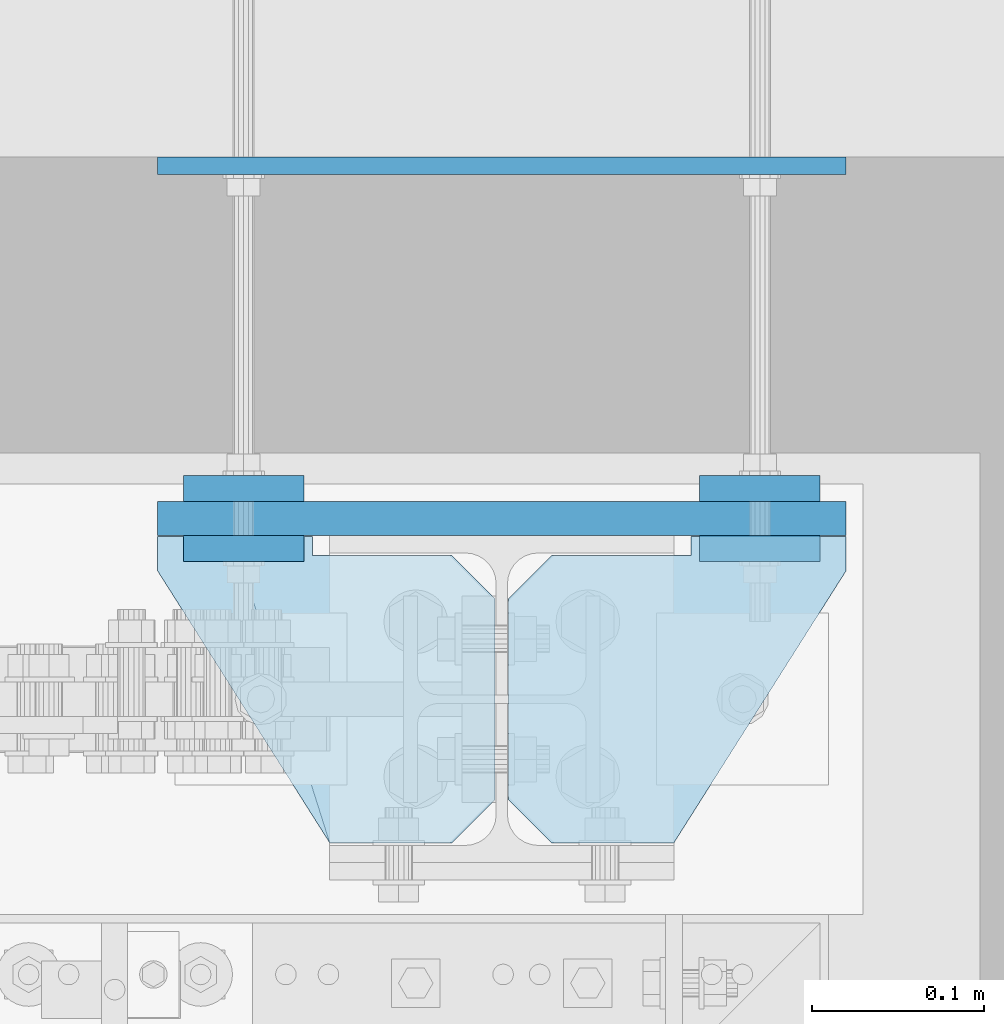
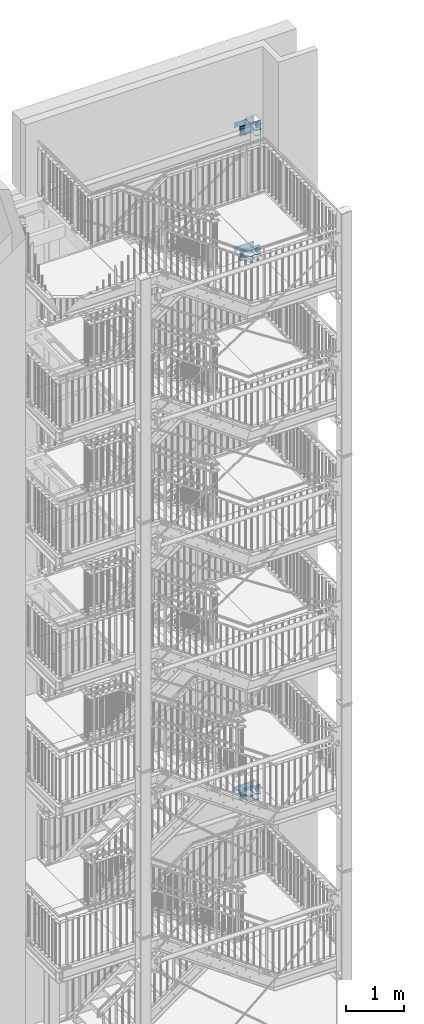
# One storey, part 212 of 825: 28 plates, 44 openings.
"""IFC2X3 building model written with IfcOpenShell, lengths in millimetres."""

from ifc_helpers import new_model, entity, si_unit, converted_unit, frame, frame_2d, origin, origin_with_axes, origin_2d_with_axis, place, context, project, spatial, polyline, circle, outline, extrude, material, layer, layer_set, element, save


model = new_model("IFC2X3")

# Units and contexts
model_context = context("Model", 3, precision=1e-09, world=origin_with_axes())
ifc_project = project(units=[si_unit("LENGTHUNIT", "METRE", prefix="MILLI"), si_unit("AREAUNIT", "SQUARE_METRE"), si_unit("VOLUMEUNIT", "CUBIC_METRE"), converted_unit("PLANEANGLEUNIT", "DEGREE", entity("IfcPlaneAngleMeasure", 0.01745329), si_unit("PLANEANGLEUNIT", "RADIAN"), dimensions=[0, 0, 0, 0, 0, 0, 0])], contexts=[model_context])

# Site, building, storey
site_placement = place(None, origin_with_axes())
site = spatial("IfcSite", under=ifc_project, at=site_placement, Name="Cnopf'sche Kinderklinik", CompositionType="ELEMENT")
building_placement = place(site_placement, origin_with_axes())
building = spatial("IfcBuilding", under=site, at=building_placement, Name="Struktur 1", CompositionType="ELEMENT")
storey_placement = place(building_placement, origin_with_axes())
storey = spatial("IfcBuildingStorey", under=building, at=storey_placement, Name="Default Storey", CompositionType="ELEMENT", Elevation=0.0)

# Plate, opening
ifc_material = material(Name="S235JR")
ifc_layer_1 = layer(ifc_material, 15.0)
ifc_layer_set_1 = layer_set([ifc_layer_1], Name="S235JR")
plate_1_placement = place(None, frame((8716.71340296, 7611.736971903, 15149.0), z_axis=(0.0, -1.0, 0.0), x_axis=(1.0, 0.0, 0.0)))
plate_1 = element("IfcPlate", 1, at=plate_1_placement, inside=storey, material=ifc_layer_set_1, Name="-", ObjectType="-", context=model_context, shape_type="SweptSolid", body=[
    extrude(outline(polyline([(-35.0, -35.0), (35.0, -35.0), (35.0, 35.0), (-35.0, 35.0), (-35.0, -35.0)])), origin_with_axes(), (0.0, 0.0, 1.0), 15.0),
])
opening_1_placement = place(plate_1_placement, frame((-2.68e-07, 0.0, -0.5), z_axis=(0.0, 0.0, 1.0), x_axis=(1.0, 0.0, 0.0)))
element("IfcOpeningElement", 2, at=opening_1_placement, cuts=plate_1, ObjectType="Opening", context=model_context, shape_type="SweptSolid", body=[
    extrude(circle(Radius=7.001, at=origin_2d_with_axis()), origin(), (0.0, 0.0, 1.0), 16.0),
])

plate_2_placement = place(None, frame((8716.71340296, 7646.736971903, 15149.0), z_axis=(0.0, -1.0, 0.0), x_axis=(1.0, 0.0, 0.0)))
plate_2 = element("IfcPlate", 3, at=plate_2_placement, inside=storey, material=ifc_layer_set_1, Name="-", ObjectType="-", context=model_context, shape_type="SweptSolid", body=[
    extrude(outline(polyline([(-35.0, -35.0), (35.0, -35.0), (35.0, 35.0), (-35.0, 35.0), (-35.0, -35.0)])), origin_with_axes(), (0.0, 0.0, 1.0), 15.0),
])
opening_2_placement = place(plate_2_placement, frame((-2.68e-07, 0.0, -0.5), z_axis=(0.0, 0.0, 1.0), x_axis=(1.0, 0.0, 0.0)))
element("IfcOpeningElement", 4, at=opening_2_placement, cuts=plate_2, ObjectType="Opening", context=model_context, shape_type="SweptSolid", body=[
    extrude(circle(Radius=7.001, at=origin_2d_with_axis()), origin(), (0.0, 0.0, 1.0), 16.0),
])

# Plate, openings
ifc_layer_2 = layer(ifc_material, 10.0)
ifc_layer_set_2 = layer_set([ifc_layer_2], Name="S235JR")
plate_3_placement = place(None, frame((8866.713402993, 7831.736971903, 15149.000000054), z_axis=(0.0, -1.0, 0.0), x_axis=(1.0, 0.0, 0.0)))
plate_3 = element("IfcPlate", 5, at=plate_3_placement, inside=storey, material=ifc_layer_set_2, Name="-", ObjectType="-", context=model_context, shape_type="SweptSolid", body=[
    extrude(outline(polyline([(-200.0, -50.0), (200.0, -50.0), (200.0, 50.0), (-200.0, 50.0), (-200.0, -50.0)])), origin_with_axes(), (0.0, 0.0, 1.0), 10.0),
])
opening_3_placement = place(plate_3_placement, frame((-3.4e-08, -5.4e-08, -0.5), z_axis=(0.0, 0.0, 1.0), x_axis=(1.0, 0.0, 0.0)))
element("IfcOpeningElement", 6, at=opening_3_placement, cuts=plate_3, ObjectType="Opening", context=model_context, shape_type="SweptSolid", body=[
    extrude(circle(Radius=7.001, at=frame_2d((150.0, 0.0), x_axis=(1.0, 0.0))), origin(), (0.0, 0.0, 1.0), 11.0),
])
opening_4_placement = place(plate_3_placement, frame((-3.4e-08, -5.4e-08, -0.5), z_axis=(0.0, 0.0, 1.0), x_axis=(1.0, 0.0, 0.0)))
element("IfcOpeningElement", 7, at=opening_4_placement, cuts=plate_3, ObjectType="Opening", context=model_context, shape_type="SweptSolid", body=[
    extrude(circle(Radius=7.001, at=frame_2d((-150.0, 0.0), x_axis=(1.0, 0.0))), origin(), (0.0, 0.0, 1.0), 11.0),
])

# Plate, opening
plate_4_placement = place(None, frame((9016.713403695, 7611.736971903, 15149.0), z_axis=(0.0, 1.0, 0.0), x_axis=(-1.0, 0.0, 0.0)))
plate_4 = element("IfcPlate", 8, at=plate_4_placement, inside=storey, material=ifc_layer_set_1, Name="-", ObjectType="-", context=model_context, shape_type="SweptSolid", body=[
    extrude(outline(polyline([(-35.0, -35.0), (35.0, -35.0), (35.0, 35.0), (-35.0, 35.0), (-35.0, -35.0)])), origin_with_axes(), (0.0, 0.0, -1.0), 15.0),
])
opening_5_placement = place(plate_4_placement, frame((-7.001000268, 0.0, 0.5), z_axis=(0.0, 0.0, 1.0), x_axis=(1.0, 0.0, 0.0)))
element("IfcOpeningElement", 9, at=opening_5_placement, cuts=plate_4, ObjectType="Opening", context=model_context, shape_type="SweptSolid", body=[
    extrude(circle(Radius=7.001, at=frame_2d((7.001, 0.0), x_axis=(1.0, 0.0))), origin(), (0.0, 0.0, -1.0), 16.0),
])

plate_5_placement = place(None, frame((9016.713403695, 7646.736971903, 15149.0), z_axis=(0.0, 1.0, 0.0), x_axis=(-1.0, 0.0, 0.0)))
plate_5 = element("IfcPlate", 10, at=plate_5_placement, inside=storey, material=ifc_layer_set_1, Name="-", ObjectType="-", context=model_context, shape_type="SweptSolid", body=[
    extrude(outline(polyline([(-35.0, -35.0), (35.0, -35.0), (35.0, 35.0), (-35.0, 35.0), (-35.0, -35.0)])), origin_with_axes(), (0.0, 0.0, -1.0), 15.0),
])
opening_6_placement = place(plate_5_placement, frame((-7.001000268, 0.0, 0.5), z_axis=(0.0, 0.0, 1.0), x_axis=(1.0, 0.0, 0.0)))
element("IfcOpeningElement", 11, at=opening_6_placement, cuts=plate_5, ObjectType="Opening", context=model_context, shape_type="SweptSolid", body=[
    extrude(circle(Radius=7.001, at=frame_2d((7.001, 0.0), x_axis=(1.0, 0.0))), origin(), (0.0, 0.0, -1.0), 16.0),
])

# Plate, openings
ifc_layer_3 = layer(ifc_material, 20.0)
ifc_layer_set_3 = layer_set([ifc_layer_3], Name="S235JR")
plate_6_placement = place(None, frame((8866.713402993, 7631.736971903, 15149.000000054), z_axis=(0.0, -1.0, 0.0), x_axis=(1.0, 0.0, 0.0)))
plate_6 = element("IfcPlate", 12, at=plate_6_placement, inside=storey, material=ifc_layer_set_3, Name="-", ObjectType="-", context=model_context, shape_type="SweptSolid", body=[
    extrude(outline(polyline([(-200.0, -100.0), (200.0, -100.0), (200.0, 100.0), (-200.0, 100.0), (-200.0, -100.0)])), origin_with_axes(), (0.0, 0.0, 1.0), 20.0),
])
opening_7_placement = place(plate_6_placement, frame((-3.4e-08, -5.4e-08, -0.5), z_axis=(0.0, 0.0, 1.0), x_axis=(1.0, 0.0, 0.0)))
element("IfcOpeningElement", 13, at=opening_7_placement, cuts=plate_6, ObjectType="Opening", context=model_context, shape_type="SweptSolid", body=[
    extrude(circle(Radius=20.001, at=frame_2d((150.0, 0.0), x_axis=(1.0, 0.0))), origin(), (0.0, 0.0, 1.0), 21.0),
])
opening_8_placement = place(plate_6_placement, frame((-3.4e-08, -5.4e-08, -0.5), z_axis=(0.0, 0.0, 1.0), x_axis=(1.0, 0.0, 0.0)))
element("IfcOpeningElement", 14, at=opening_8_placement, cuts=plate_6, ObjectType="Opening", context=model_context, shape_type="SweptSolid", body=[
    extrude(circle(Radius=20.001, at=frame_2d((-150.0, 0.0), x_axis=(1.0, 0.0))), origin(), (0.0, 0.0, 1.0), 21.0),
])

plate_7_placement = place(None, frame((8666.713402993, 7611.236971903, 15204.000000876), z_axis=(0.0, 0.0, 1.0), x_axis=(0.0, -1.0, 0.0)))
plate_7 = element("IfcPlate", 15, at=plate_7_placement, inside=storey, material=ifc_layer_set_2, Name="-", ObjectType="-", context=model_context, shape_type="SweptSolid", body=[
    extrude(outline(polyline([(0.0, 0.0), (20.0, 0.0), (178.0, 100.0), (178.0, 196.0), (11.0, 196.0), (11.0, 90.0), (0.0, 90.0), (0.0, 0.0)])), origin_with_axes(), (0.0, 0.0, 1.0), 10.0),
])
opening_9_placement = place(plate_7_placement, frame((0.0, 0.0, -0.01), z_axis=(0.0, 0.0, 1.0), x_axis=(1.0, 0.0, 0.0)))
element("IfcOpeningElement", 16, at=opening_9_placement, cuts=plate_7, ObjectType="Opening", context=model_context, shape_type="SweptSolid", body=[
    extrude(outline(polyline([(11.0, 196.0), (11.0, 171.0), (36.0, 196.0), (11.0, 196.0)])), origin(), (0.0, 0.0, 1.0), 10.02),
])
opening_10_placement = place(plate_7_placement, frame((0.0, 0.0, -0.01), z_axis=(0.0, 0.0, 1.0), x_axis=(1.0, 0.0, 0.0)))
element("IfcOpeningElement", 17, at=opening_10_placement, cuts=plate_7, ObjectType="Opening", context=model_context, shape_type="SweptSolid", body=[
    extrude(outline(polyline([(178.0, 196.0), (153.0, 196.0), (178.0, 171.0), (178.0, 196.0)])), origin(), (0.0, 0.0, 1.0), 10.02),
])

plate_8_placement = place(None, frame((8666.713402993, 7611.236971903, 15084.000000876), z_axis=(0.0, 0.0, 1.0), x_axis=(0.0, -1.0, 0.0)))
plate_8 = element("IfcPlate", 18, at=plate_8_placement, inside=storey, material=ifc_layer_set_2, Name="-", ObjectType="-", context=model_context, shape_type="SweptSolid", body=[
    extrude(outline(polyline([(0.0, 0.0), (20.0, 0.0), (178.0, 100.0), (178.0, 196.0), (11.0, 196.0), (11.0, 90.0), (0.0, 90.0), (0.0, 0.0)])), origin_with_axes(), (0.0, 0.0, 1.0), 10.0),
])
opening_11_placement = place(plate_8_placement, frame((0.0, 0.0, -0.01), z_axis=(0.0, 0.0, 1.0), x_axis=(1.0, 0.0, 0.0)))
element("IfcOpeningElement", 19, at=opening_11_placement, cuts=plate_8, ObjectType="Opening", context=model_context, shape_type="SweptSolid", body=[
    extrude(outline(polyline([(11.0, 196.0), (11.0, 171.0), (36.0, 196.0), (11.0, 196.0)])), origin(), (0.0, 0.0, 1.0), 10.02),
])
opening_12_placement = place(plate_8_placement, frame((0.0, 0.0, -0.01), z_axis=(0.0, 0.0, 1.0), x_axis=(1.0, 0.0, 0.0)))
element("IfcOpeningElement", 20, at=opening_12_placement, cuts=plate_8, ObjectType="Opening", context=model_context, shape_type="SweptSolid", body=[
    extrude(outline(polyline([(178.0, 196.0), (153.0, 196.0), (178.0, 171.0), (178.0, 196.0)])), origin(), (0.0, 0.0, 1.0), 10.02),
])

plate_9_placement = place(None, frame((9066.713402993, 7611.236971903, 15204.000000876), z_axis=(0.0, 0.0, -1.0), x_axis=(0.0, -1.0, 0.0)))
plate_9 = element("IfcPlate", 21, at=plate_9_placement, inside=storey, material=ifc_layer_set_2, Name="-", ObjectType="-", context=model_context, shape_type="SweptSolid", body=[
    extrude(outline(polyline([(0.0, 0.0), (20.0, 0.0), (178.0, 100.0), (178.0, 196.0), (11.0, 196.0), (11.0, 90.0), (0.0, 90.0), (0.0, 0.0)])), origin_with_axes(), (0.0, 0.0, -1.0), 10.0),
])
opening_13_placement = place(plate_9_placement, frame((11.0, 196.0, 0.01), z_axis=(0.0, 0.0, 1.0), x_axis=(0.0, -1.0, 0.0)))
element("IfcOpeningElement", 22, at=opening_13_placement, cuts=plate_9, ObjectType="Opening", context=model_context, shape_type="SweptSolid", body=[
    extrude(outline(polyline([(0.0, 0.0), (25.0, 0.0), (0.0, 25.0), (0.0, 0.0)])), origin(), (0.0, 0.0, -1.0), 10.02),
])
opening_14_placement = place(plate_9_placement, frame((178.0, 196.0, 0.01), z_axis=(0.0, 0.0, 1.0), x_axis=(-1.0, 0.0, 0.0)))
element("IfcOpeningElement", 23, at=opening_14_placement, cuts=plate_9, ObjectType="Opening", context=model_context, shape_type="SweptSolid", body=[
    extrude(outline(polyline([(0.0, 0.0), (25.0, 0.0), (0.0, 25.0), (0.0, 0.0)])), origin(), (0.0, 0.0, -1.0), 10.02),
])

plate_10_placement = place(None, frame((9066.713402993, 7611.236971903, 15084.000000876), z_axis=(0.0, 0.0, -1.0), x_axis=(0.0, -1.0, 0.0)))
plate_10 = element("IfcPlate", 24, at=plate_10_placement, inside=storey, material=ifc_layer_set_2, Name="-", ObjectType="-", context=model_context, shape_type="SweptSolid", body=[
    extrude(outline(polyline([(0.0, 0.0), (20.0, 0.0), (178.0, 100.0), (178.0, 196.0), (11.0, 196.0), (11.0, 90.0), (0.0, 90.0), (0.0, 0.0)])), origin_with_axes(), (0.0, 0.0, -1.0), 10.0),
])
opening_15_placement = place(plate_10_placement, frame((11.0, 196.0, 0.01), z_axis=(0.0, 0.0, 1.0), x_axis=(0.0, -1.0, 0.0)))
element("IfcOpeningElement", 25, at=opening_15_placement, cuts=plate_10, ObjectType="Opening", context=model_context, shape_type="SweptSolid", body=[
    extrude(outline(polyline([(0.0, 0.0), (25.0, 0.0), (0.0, 25.0), (0.0, 0.0)])), origin(), (0.0, 0.0, -1.0), 10.02),
])
opening_16_placement = place(plate_10_placement, frame((178.0, 196.0, 0.01), z_axis=(0.0, 0.0, 1.0), x_axis=(-1.0, 0.0, 0.0)))
element("IfcOpeningElement", 26, at=opening_16_placement, cuts=plate_10, ObjectType="Opening", context=model_context, shape_type="SweptSolid", body=[
    extrude(outline(polyline([(0.0, 0.0), (25.0, 0.0), (0.0, 25.0), (0.0, 0.0)])), origin(), (0.0, 0.0, -1.0), 10.02),
])

# Plate, opening
plate_11_placement = place(None, frame((9016.713403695, 7646.736971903, 17769.0), z_axis=(0.0, 1.0, 0.0), x_axis=(-1.0, 0.0, 0.0)))
plate_11 = element("IfcPlate", 27, at=plate_11_placement, inside=storey, material=ifc_layer_set_1, Name="-", ObjectType="-", context=model_context, shape_type="SweptSolid", body=[
    extrude(outline(polyline([(-35.0, -35.0), (35.0, -35.0), (35.0, 35.0), (-35.0, 35.0), (-35.0, -35.0)])), origin_with_axes(), (0.0, 0.0, -1.0), 15.0),
])
opening_17_placement = place(plate_11_placement, frame((-7.001000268, 0.0, 0.5), z_axis=(0.0, 0.0, 1.0), x_axis=(1.0, 0.0, 0.0)))
element("IfcOpeningElement", 28, at=opening_17_placement, cuts=plate_11, ObjectType="Opening", context=model_context, shape_type="SweptSolid", body=[
    extrude(circle(Radius=7.001, at=frame_2d((7.001, 0.0), x_axis=(1.0, 0.0))), origin(), (0.0, 0.0, -1.0), 16.0),
])

plate_12_placement = place(None, frame((9016.713403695, 7611.736971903, 17769.0), z_axis=(0.0, 1.0, 0.0), x_axis=(-1.0, 0.0, 0.0)))
plate_12 = element("IfcPlate", 29, at=plate_12_placement, inside=storey, material=ifc_layer_set_1, Name="-", ObjectType="-", context=model_context, shape_type="SweptSolid", body=[
    extrude(outline(polyline([(-35.0, -35.0), (35.0, -35.0), (35.0, 35.0), (-35.0, 35.0), (-35.0, -35.0)])), origin_with_axes(), (0.0, 0.0, -1.0), 15.0),
])
opening_18_placement = place(plate_12_placement, frame((-7.001000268, 0.0, 0.5), z_axis=(0.0, 0.0, 1.0), x_axis=(1.0, 0.0, 0.0)))
element("IfcOpeningElement", 30, at=opening_18_placement, cuts=plate_12, ObjectType="Opening", context=model_context, shape_type="SweptSolid", body=[
    extrude(circle(Radius=7.001, at=frame_2d((7.001, 0.0), x_axis=(1.0, 0.0))), origin(), (0.0, 0.0, -1.0), 16.0),
])

# Plate, openings
plate_13_placement = place(None, frame((8866.713402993, 7831.736971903, 17769.000000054), z_axis=(0.0, -1.0, 0.0), x_axis=(1.0, 0.0, 0.0)))
plate_13 = element("IfcPlate", 31, at=plate_13_placement, inside=storey, material=ifc_layer_set_2, Name="-", ObjectType="-", context=model_context, shape_type="SweptSolid", body=[
    extrude(outline(polyline([(-200.0, -50.0), (200.0, -50.0), (200.0, 50.0), (-200.0, 50.0), (-200.0, -50.0)])), origin_with_axes(), (0.0, 0.0, 1.0), 10.0),
])
opening_19_placement = place(plate_13_placement, frame((-3.4e-08, -5.4e-08, -0.5), z_axis=(0.0, 0.0, 1.0), x_axis=(1.0, 0.0, 0.0)))
element("IfcOpeningElement", 32, at=opening_19_placement, cuts=plate_13, ObjectType="Opening", context=model_context, shape_type="SweptSolid", body=[
    extrude(circle(Radius=7.001, at=frame_2d((150.0, 0.0), x_axis=(1.0, 0.0))), origin(), (0.0, 0.0, 1.0), 11.0),
])
opening_20_placement = place(plate_13_placement, frame((-3.4e-08, -5.4e-08, -0.5), z_axis=(0.0, 0.0, 1.0), x_axis=(1.0, 0.0, 0.0)))
element("IfcOpeningElement", 33, at=opening_20_placement, cuts=plate_13, ObjectType="Opening", context=model_context, shape_type="SweptSolid", body=[
    extrude(circle(Radius=7.001, at=frame_2d((-150.0, 0.0), x_axis=(1.0, 0.0))), origin(), (0.0, 0.0, 1.0), 11.0),
])

# Plate, opening
plate_14_placement = place(None, frame((8716.71340296, 7646.736971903, 17769.0), z_axis=(0.0, -1.0, 0.0), x_axis=(1.0, 0.0, 0.0)))
plate_14 = element("IfcPlate", 34, at=plate_14_placement, inside=storey, material=ifc_layer_set_1, Name="-", ObjectType="-", context=model_context, shape_type="SweptSolid", body=[
    extrude(outline(polyline([(-35.0, -35.0), (35.0, -35.0), (35.0, 35.0), (-35.0, 35.0), (-35.0, -35.0)])), origin_with_axes(), (0.0, 0.0, 1.0), 15.0),
])
opening_21_placement = place(plate_14_placement, frame((-2.68e-07, 0.0, -0.5), z_axis=(0.0, 0.0, 1.0), x_axis=(1.0, 0.0, 0.0)))
element("IfcOpeningElement", 35, at=opening_21_placement, cuts=plate_14, ObjectType="Opening", context=model_context, shape_type="SweptSolid", body=[
    extrude(circle(Radius=7.001, at=origin_2d_with_axis()), origin(), (0.0, 0.0, 1.0), 16.0),
])

plate_15_placement = place(None, frame((8716.71340296, 7611.736971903, 17769.0), z_axis=(0.0, -1.0, 0.0), x_axis=(1.0, 0.0, 0.0)))
plate_15 = element("IfcPlate", 36, at=plate_15_placement, inside=storey, material=ifc_layer_set_1, Name="-", ObjectType="-", context=model_context, shape_type="SweptSolid", body=[
    extrude(outline(polyline([(-35.0, -35.0), (35.0, -35.0), (35.0, 35.0), (-35.0, 35.0), (-35.0, -35.0)])), origin_with_axes(), (0.0, 0.0, 1.0), 15.0),
])
opening_22_placement = place(plate_15_placement, frame((-2.68e-07, 0.0, -0.5), z_axis=(0.0, 0.0, 1.0), x_axis=(1.0, 0.0, 0.0)))
element("IfcOpeningElement", 37, at=opening_22_placement, cuts=plate_15, ObjectType="Opening", context=model_context, shape_type="SweptSolid", body=[
    extrude(circle(Radius=7.001, at=origin_2d_with_axis()), origin(), (0.0, 0.0, 1.0), 16.0),
])

# Plate, openings
plate_16_placement = place(None, frame((9066.713402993, 7611.236971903, 17704.000000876), z_axis=(0.0, 0.0, -1.0), x_axis=(0.0, -1.0, 0.0)))
plate_16 = element("IfcPlate", 38, at=plate_16_placement, inside=storey, material=ifc_layer_set_2, Name="-", ObjectType="-", context=model_context, shape_type="SweptSolid", body=[
    extrude(outline(polyline([(0.0, 0.0), (20.0, 0.0), (178.0, 100.0), (178.0, 196.0), (11.0, 196.0), (11.0, 90.0), (0.0, 90.0), (0.0, 0.0)])), origin_with_axes(), (0.0, 0.0, -1.0), 10.0),
])
opening_23_placement = place(plate_16_placement, frame((11.0, 196.0, 0.01), z_axis=(0.0, 0.0, 1.0), x_axis=(0.0, -1.0, 0.0)))
element("IfcOpeningElement", 39, at=opening_23_placement, cuts=plate_16, ObjectType="Opening", context=model_context, shape_type="SweptSolid", body=[
    extrude(outline(polyline([(0.0, 0.0), (25.0, 0.0), (0.0, 25.0), (0.0, 0.0)])), origin(), (0.0, 0.0, -1.0), 10.02),
])
opening_24_placement = place(plate_16_placement, frame((178.0, 196.0, 0.01), z_axis=(0.0, 0.0, 1.0), x_axis=(-1.0, 0.0, 0.0)))
element("IfcOpeningElement", 40, at=opening_24_placement, cuts=plate_16, ObjectType="Opening", context=model_context, shape_type="SweptSolid", body=[
    extrude(outline(polyline([(0.0, 0.0), (25.0, 0.0), (0.0, 25.0), (0.0, 0.0)])), origin(), (0.0, 0.0, -1.0), 10.02),
])

plate_17_placement = place(None, frame((9066.713402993, 7611.236971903, 17824.000000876), z_axis=(0.0, 0.0, -1.0), x_axis=(0.0, -1.0, 0.0)))
plate_17 = element("IfcPlate", 41, at=plate_17_placement, inside=storey, material=ifc_layer_set_2, Name="-", ObjectType="-", context=model_context, shape_type="SweptSolid", body=[
    extrude(outline(polyline([(0.0, 0.0), (20.0, 0.0), (178.0, 100.0), (178.0, 196.0), (11.0, 196.0), (11.0, 90.0), (0.0, 90.0), (0.0, 0.0)])), origin_with_axes(), (0.0, 0.0, -1.0), 10.0),
])
opening_25_placement = place(plate_17_placement, frame((11.0, 196.0, 0.01), z_axis=(0.0, 0.0, 1.0), x_axis=(0.0, -1.0, 0.0)))
element("IfcOpeningElement", 42, at=opening_25_placement, cuts=plate_17, ObjectType="Opening", context=model_context, shape_type="SweptSolid", body=[
    extrude(outline(polyline([(0.0, 0.0), (25.0, 0.0), (0.0, 25.0), (0.0, 0.0)])), origin(), (0.0, 0.0, -1.0), 10.02),
])
opening_26_placement = place(plate_17_placement, frame((178.0, 196.0, 0.01), z_axis=(0.0, 0.0, 1.0), x_axis=(-1.0, 0.0, 0.0)))
element("IfcOpeningElement", 43, at=opening_26_placement, cuts=plate_17, ObjectType="Opening", context=model_context, shape_type="SweptSolid", body=[
    extrude(outline(polyline([(0.0, 0.0), (25.0, 0.0), (0.0, 25.0), (0.0, 0.0)])), origin(), (0.0, 0.0, -1.0), 10.02),
])

plate_18_placement = place(None, frame((8866.713402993, 7631.736971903, 17769.000000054), z_axis=(0.0, -1.0, 0.0), x_axis=(1.0, 0.0, 0.0)))
plate_18 = element("IfcPlate", 44, at=plate_18_placement, inside=storey, material=ifc_layer_set_3, Name="-", ObjectType="-", context=model_context, shape_type="SweptSolid", body=[
    extrude(outline(polyline([(-200.0, -100.0), (200.0, -100.0), (200.0, 100.0), (-200.0, 100.0), (-200.0, -100.0)])), origin_with_axes(), (0.0, 0.0, 1.0), 20.0),
])
opening_27_placement = place(plate_18_placement, frame((-3.4e-08, -5.4e-08, -0.5), z_axis=(0.0, 0.0, 1.0), x_axis=(1.0, 0.0, 0.0)))
element("IfcOpeningElement", 45, at=opening_27_placement, cuts=plate_18, ObjectType="Opening", context=model_context, shape_type="SweptSolid", body=[
    extrude(circle(Radius=20.001, at=frame_2d((150.0, 0.0), x_axis=(1.0, 0.0))), origin(), (0.0, 0.0, 1.0), 21.0),
])
opening_28_placement = place(plate_18_placement, frame((-3.4e-08, -5.4e-08, -0.5), z_axis=(0.0, 0.0, 1.0), x_axis=(1.0, 0.0, 0.0)))
element("IfcOpeningElement", 46, at=opening_28_placement, cuts=plate_18, ObjectType="Opening", context=model_context, shape_type="SweptSolid", body=[
    extrude(circle(Radius=20.001, at=frame_2d((-150.0, 0.0), x_axis=(1.0, 0.0))), origin(), (0.0, 0.0, 1.0), 21.0),
])

plate_19_placement = place(None, frame((8866.713402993, 7631.736971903, 3782.000000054), z_axis=(0.0, -1.0, 0.0), x_axis=(1.0, 0.0, 0.0)))
plate_19 = element("IfcPlate", 47, at=plate_19_placement, inside=storey, material=ifc_layer_set_3, Name="-", ObjectType="-", context=model_context, shape_type="SweptSolid", body=[
    extrude(outline(polyline([(-200.0, -100.0), (200.0, -100.0), (200.0, 100.0), (-200.0, 100.0), (-200.0, -100.0)])), origin_with_axes(), (0.0, 0.0, 1.0), 20.0),
])
opening_29_placement = place(plate_19_placement, frame((-3.4e-08, -5.4e-08, -0.5), z_axis=(0.0, 0.0, 1.0), x_axis=(1.0, 0.0, 0.0)))
element("IfcOpeningElement", 48, at=opening_29_placement, cuts=plate_19, ObjectType="Opening", context=model_context, shape_type="SweptSolid", body=[
    extrude(circle(Radius=20.001, at=frame_2d((150.0, 0.0), x_axis=(1.0, 0.0))), origin(), (0.0, 0.0, 1.0), 21.0),
])
opening_30_placement = place(plate_19_placement, frame((-3.4e-08, -5.4e-08, -0.5), z_axis=(0.0, 0.0, 1.0), x_axis=(1.0, 0.0, 0.0)))
element("IfcOpeningElement", 49, at=opening_30_placement, cuts=plate_19, ObjectType="Opening", context=model_context, shape_type="SweptSolid", body=[
    extrude(circle(Radius=20.001, at=frame_2d((-150.0, 0.0), x_axis=(1.0, 0.0))), origin(), (0.0, 0.0, 1.0), 21.0),
])

# Plate, opening
plate_20_placement = place(None, frame((8716.71340296, 7611.736971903, 3782.0), z_axis=(0.0, -1.0, 0.0), x_axis=(1.0, 0.0, 0.0)))
plate_20 = element("IfcPlate", 50, at=plate_20_placement, inside=storey, material=ifc_layer_set_1, Name="-", ObjectType="-", context=model_context, shape_type="SweptSolid", body=[
    extrude(outline(polyline([(-35.0, -35.0), (35.0, -35.0), (35.0, 35.0), (-35.0, 35.0), (-35.0, -35.0)])), origin_with_axes(), (0.0, 0.0, 1.0), 15.0),
])
opening_31_placement = place(plate_20_placement, frame((-2.68e-07, 0.0, -0.5), z_axis=(0.0, 0.0, 1.0), x_axis=(1.0, 0.0, 0.0)))
element("IfcOpeningElement", 51, at=opening_31_placement, cuts=plate_20, ObjectType="Opening", context=model_context, shape_type="SweptSolid", body=[
    extrude(circle(Radius=7.001, at=origin_2d_with_axis()), origin(), (0.0, 0.0, 1.0), 16.0),
])

plate_21_placement = place(None, frame((8716.71340296, 7646.736971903, 3782.0), z_axis=(0.0, -1.0, 0.0), x_axis=(1.0, 0.0, 0.0)))
plate_21 = element("IfcPlate", 52, at=plate_21_placement, inside=storey, material=ifc_layer_set_1, Name="-", ObjectType="-", context=model_context, shape_type="SweptSolid", body=[
    extrude(outline(polyline([(-35.0, -35.0), (35.0, -35.0), (35.0, 35.0), (-35.0, 35.0), (-35.0, -35.0)])), origin_with_axes(), (0.0, 0.0, 1.0), 15.0),
])
opening_32_placement = place(plate_21_placement, frame((-2.68e-07, 0.0, -0.5), z_axis=(0.0, 0.0, 1.0), x_axis=(1.0, 0.0, 0.0)))
element("IfcOpeningElement", 53, at=opening_32_placement, cuts=plate_21, ObjectType="Opening", context=model_context, shape_type="SweptSolid", body=[
    extrude(circle(Radius=7.001, at=origin_2d_with_axis()), origin(), (0.0, 0.0, 1.0), 16.0),
])

# Plate, openings
plate_22_placement = place(None, frame((8866.713402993, 7831.736971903, 3782.000000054), z_axis=(0.0, -1.0, 0.0), x_axis=(1.0, 0.0, 0.0)))
plate_22 = element("IfcPlate", 54, at=plate_22_placement, inside=storey, material=ifc_layer_set_2, Name="-", ObjectType="-", context=model_context, shape_type="SweptSolid", body=[
    extrude(outline(polyline([(-200.0, -50.0), (200.0, -50.0), (200.0, 50.0), (-200.0, 50.0), (-200.0, -50.0)])), origin_with_axes(), (0.0, 0.0, 1.0), 10.0),
])
opening_33_placement = place(plate_22_placement, frame((-3.4e-08, -5.4e-08, -0.5), z_axis=(0.0, 0.0, 1.0), x_axis=(1.0, 0.0, 0.0)))
element("IfcOpeningElement", 55, at=opening_33_placement, cuts=plate_22, ObjectType="Opening", context=model_context, shape_type="SweptSolid", body=[
    extrude(circle(Radius=7.001, at=frame_2d((150.0, 0.0), x_axis=(1.0, 0.0))), origin(), (0.0, 0.0, 1.0), 11.0),
])
opening_34_placement = place(plate_22_placement, frame((-3.4e-08, -5.4e-08, -0.5), z_axis=(0.0, 0.0, 1.0), x_axis=(1.0, 0.0, 0.0)))
element("IfcOpeningElement", 56, at=opening_34_placement, cuts=plate_22, ObjectType="Opening", context=model_context, shape_type="SweptSolid", body=[
    extrude(circle(Radius=7.001, at=frame_2d((-150.0, 0.0), x_axis=(1.0, 0.0))), origin(), (0.0, 0.0, 1.0), 11.0),
])

plate_23_placement = place(None, frame((8666.713402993, 7611.236971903, 3837.000000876), z_axis=(0.0, 0.0, 1.0), x_axis=(0.0, -1.0, 0.0)))
plate_23 = element("IfcPlate", 57, at=plate_23_placement, inside=storey, material=ifc_layer_set_2, Name="-", ObjectType="-", context=model_context, shape_type="SweptSolid", body=[
    extrude(outline(polyline([(0.0, 0.0), (20.0, 0.0), (178.0, 100.0), (178.0, 196.0), (11.0, 196.0), (11.0, 90.0), (0.0, 90.0), (0.0, 0.0)])), origin_with_axes(), (0.0, 0.0, 1.0), 10.0),
])
opening_35_placement = place(plate_23_placement, frame((0.0, 0.0, -0.01), z_axis=(0.0, 0.0, 1.0), x_axis=(1.0, 0.0, 0.0)))
element("IfcOpeningElement", 58, at=opening_35_placement, cuts=plate_23, ObjectType="Opening", context=model_context, shape_type="SweptSolid", body=[
    extrude(outline(polyline([(11.0, 196.0), (11.0, 171.0), (36.0, 196.0), (11.0, 196.0)])), origin(), (0.0, 0.0, 1.0), 10.02),
])
opening_36_placement = place(plate_23_placement, frame((0.0, 0.0, -0.01), z_axis=(0.0, 0.0, 1.0), x_axis=(1.0, 0.0, 0.0)))
element("IfcOpeningElement", 59, at=opening_36_placement, cuts=plate_23, ObjectType="Opening", context=model_context, shape_type="SweptSolid", body=[
    extrude(outline(polyline([(178.0, 196.0), (153.0, 196.0), (178.0, 171.0), (178.0, 196.0)])), origin(), (0.0, 0.0, 1.0), 10.02),
])

plate_24_placement = place(None, frame((9066.713402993, 7611.236971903, 3837.000000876), z_axis=(0.0, 0.0, -1.0), x_axis=(0.0, -1.0, 0.0)))
plate_24 = element("IfcPlate", 60, at=plate_24_placement, inside=storey, material=ifc_layer_set_2, Name="-", ObjectType="-", context=model_context, shape_type="SweptSolid", body=[
    extrude(outline(polyline([(0.0, 0.0), (20.0, 0.0), (178.0, 100.0), (178.0, 196.0), (11.0, 196.0), (11.0, 90.0), (0.0, 90.0), (0.0, 0.0)])), origin_with_axes(), (0.0, 0.0, -1.0), 10.0),
])
opening_37_placement = place(plate_24_placement, frame((11.0, 196.0, 0.01), z_axis=(0.0, 0.0, 1.0), x_axis=(0.0, -1.0, 0.0)))
element("IfcOpeningElement", 61, at=opening_37_placement, cuts=plate_24, ObjectType="Opening", context=model_context, shape_type="SweptSolid", body=[
    extrude(outline(polyline([(0.0, 0.0), (25.0, 0.0), (0.0, 25.0), (0.0, 0.0)])), origin(), (0.0, 0.0, -1.0), 10.02),
])
opening_38_placement = place(plate_24_placement, frame((178.0, 196.0, 0.01), z_axis=(0.0, 0.0, 1.0), x_axis=(-1.0, 0.0, 0.0)))
element("IfcOpeningElement", 62, at=opening_38_placement, cuts=plate_24, ObjectType="Opening", context=model_context, shape_type="SweptSolid", body=[
    extrude(outline(polyline([(0.0, 0.0), (25.0, 0.0), (0.0, 25.0), (0.0, 0.0)])), origin(), (0.0, 0.0, -1.0), 10.02),
])

plate_25_placement = place(None, frame((8666.713402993, 7611.236971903, 3717.000000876), z_axis=(0.0, 0.0, 1.0), x_axis=(0.0, -1.0, 0.0)))
plate_25 = element("IfcPlate", 63, at=plate_25_placement, inside=storey, material=ifc_layer_set_2, Name="-", ObjectType="-", context=model_context, shape_type="SweptSolid", body=[
    extrude(outline(polyline([(0.0, 49.919652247), (20.0, 49.999999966), (178.0, 100.0), (178.0, 196.0), (11.0, 196.0), (11.0, 90.0), (0.0, 90.0), (0.0, 49.919652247)])), origin_with_axes(), (0.0, 0.0, 1.0), 10.0),
])
opening_39_placement = place(plate_25_placement, frame((0.0, 0.0, -0.01), z_axis=(0.0, 0.0, 1.0), x_axis=(1.0, 0.0, 0.0)))
element("IfcOpeningElement", 64, at=opening_39_placement, cuts=plate_25, ObjectType="Opening", context=model_context, shape_type="SweptSolid", body=[
    extrude(outline(polyline([(11.0, 196.0), (11.0, 171.0), (36.0, 196.0), (11.0, 196.0)])), origin(), (0.0, 0.0, 1.0), 10.02),
])
opening_40_placement = place(plate_25_placement, frame((0.0, 0.0, -0.01), z_axis=(0.0, 0.0, 1.0), x_axis=(1.0, 0.0, 0.0)))
element("IfcOpeningElement", 65, at=opening_40_placement, cuts=plate_25, ObjectType="Opening", context=model_context, shape_type="SweptSolid", body=[
    extrude(outline(polyline([(178.0, 196.0), (153.0, 196.0), (178.0, 171.0), (178.0, 196.0)])), origin(), (0.0, 0.0, 1.0), 10.02),
])

plate_26_placement = place(None, frame((9066.713402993, 7611.236971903, 3717.000000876), z_axis=(0.0, 0.0, -1.0), x_axis=(0.0, -1.0, 0.0)))
plate_26 = element("IfcPlate", 66, at=plate_26_placement, inside=storey, material=ifc_layer_set_2, Name="-", ObjectType="-", context=model_context, shape_type="SweptSolid", body=[
    extrude(outline(polyline([(0.0, 0.0), (20.0, 0.0), (178.0, 100.0), (178.0, 196.0), (11.0, 196.0), (11.0, 90.0), (0.0, 90.0), (0.0, 0.0)])), origin_with_axes(), (0.0, 0.0, -1.0), 10.0),
])
opening_41_placement = place(plate_26_placement, frame((11.0, 196.0, 0.01), z_axis=(0.0, 0.0, 1.0), x_axis=(0.0, -1.0, 0.0)))
element("IfcOpeningElement", 67, at=opening_41_placement, cuts=plate_26, ObjectType="Opening", context=model_context, shape_type="SweptSolid", body=[
    extrude(outline(polyline([(0.0, 0.0), (25.0, 0.0), (0.0, 25.0), (0.0, 0.0)])), origin(), (0.0, 0.0, -1.0), 10.02),
])
opening_42_placement = place(plate_26_placement, frame((178.0, 196.0, 0.01), z_axis=(0.0, 0.0, 1.0), x_axis=(-1.0, 0.0, 0.0)))
element("IfcOpeningElement", 68, at=opening_42_placement, cuts=plate_26, ObjectType="Opening", context=model_context, shape_type="SweptSolid", body=[
    extrude(outline(polyline([(0.0, 0.0), (25.0, 0.0), (0.0, 25.0), (0.0, 0.0)])), origin(), (0.0, 0.0, -1.0), 10.02),
])

# Plate, opening
plate_27_placement = place(None, frame((9016.713403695, 7611.736971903, 3782.0), z_axis=(0.0, 1.0, 0.0), x_axis=(-1.0, 0.0, 0.0)))
plate_27 = element("IfcPlate", 69, at=plate_27_placement, inside=storey, material=ifc_layer_set_1, Name="-", ObjectType="-", context=model_context, shape_type="SweptSolid", body=[
    extrude(outline(polyline([(-35.0, -35.0), (35.0, -35.0), (35.0, 35.0), (-35.0, 35.0), (-35.0, -35.0)])), origin_with_axes(), (0.0, 0.0, -1.0), 15.0),
])
opening_43_placement = place(plate_27_placement, frame((-7.001000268, 0.0, 0.5), z_axis=(0.0, 0.0, 1.0), x_axis=(1.0, 0.0, 0.0)))
element("IfcOpeningElement", 70, at=opening_43_placement, cuts=plate_27, ObjectType="Opening", context=model_context, shape_type="SweptSolid", body=[
    extrude(circle(Radius=7.001, at=frame_2d((7.001, 0.0), x_axis=(1.0, 0.0))), origin(), (0.0, 0.0, -1.0), 16.0),
])

plate_28_placement = place(None, frame((9016.713403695, 7646.736971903, 3782.0), z_axis=(0.0, 1.0, 0.0), x_axis=(-1.0, 0.0, 0.0)))
plate_28 = element("IfcPlate", 71, at=plate_28_placement, inside=storey, material=ifc_layer_set_1, Name="-", ObjectType="-", context=model_context, shape_type="SweptSolid", body=[
    extrude(outline(polyline([(-35.0, -35.0), (35.0, -35.0), (35.0, 35.0), (-35.0, 35.0), (-35.0, -35.0)])), origin_with_axes(), (0.0, 0.0, -1.0), 15.0),
])
opening_44_placement = place(plate_28_placement, frame((-7.001000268, 0.0, 0.5), z_axis=(0.0, 0.0, 1.0), x_axis=(1.0, 0.0, 0.0)))
element("IfcOpeningElement", 72, at=opening_44_placement, cuts=plate_28, ObjectType="Opening", context=model_context, shape_type="SweptSolid", body=[
    extrude(circle(Radius=7.001, at=frame_2d((7.001, 0.0), x_axis=(1.0, 0.0))), origin(), (0.0, 0.0, -1.0), 16.0),
])

save(model, "model.ifc")
